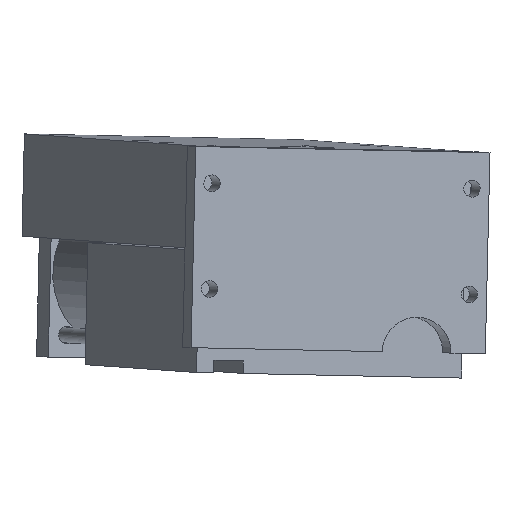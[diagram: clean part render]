
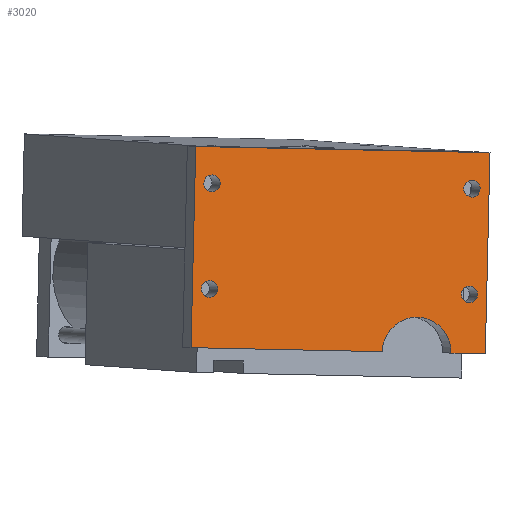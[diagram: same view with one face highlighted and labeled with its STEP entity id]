
A CAD part, front view. The second image highlights one B-rep face of the part: STEP entity #3020.
In plain terms, the highlighted planar face has unit normal (0.222, -0.975, -0.016).
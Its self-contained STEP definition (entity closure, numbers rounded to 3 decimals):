
#2684=CARTESIAN_POINT('',(80.492,-100.339,95.57));
#2685=VERTEX_POINT('',#2684);
#2686=CARTESIAN_POINT('',(77.252,-101.077,95.638));
#2687=DIRECTION('',(-0.222,0.975,0.016));
#2688=DIRECTION('',(0.975,0.222,-0.02));
#2689=AXIS2_PLACEMENT_3D('',#2686,#2687,#2688);
#2690=CIRCLE('',#2689,3.324);
#2691=EDGE_CURVE('',#2685,#2685,#2690,.T.);
#2725=CARTESIAN_POINT('',(-22.843,-123.858,97.736));
#2726=VERTEX_POINT('',#2725);
#2727=CARTESIAN_POINT('',(-26.083,-124.596,97.803));
#2728=DIRECTION('',(-0.222,0.975,0.016));
#2729=DIRECTION('',(0.975,0.222,-0.02));
#2730=AXIS2_PLACEMENT_3D('',#2727,#2728,#2729);
#2731=CIRCLE('',#2730,3.324);
#2732=EDGE_CURVE('',#2726,#2726,#2731,.T.);
#2782=CARTESIAN_POINT('',(81.474,-100.788,137.556));
#2783=VERTEX_POINT('',#2782);
#2784=CARTESIAN_POINT('',(78.234,-101.525,137.624));
#2785=DIRECTION('',(-0.222,0.975,0.016));
#2786=DIRECTION('',(0.975,0.222,-0.02));
#2787=AXIS2_PLACEMENT_3D('',#2784,#2785,#2786);
#2788=CIRCLE('',#2787,3.324);
#2789=EDGE_CURVE('',#2783,#2783,#2788,.T.);
#2831=CARTESIAN_POINT('',(-21.861,-124.307,139.722));
#2832=VERTEX_POINT('',#2831);
#2833=CARTESIAN_POINT('',(-25.101,-125.044,139.79));
#2834=DIRECTION('',(-0.222,0.975,0.016));
#2835=DIRECTION('',(0.975,0.222,-0.02));
#2836=AXIS2_PLACEMENT_3D('',#2833,#2834,#2835);
#2837=CIRCLE('',#2836,3.324);
#2838=EDGE_CURVE('',#2832,#2832,#2837,.T.);
#2848=CARTESIAN_POINT('',(85.397,-100.127,151.976));
#2849=VERTEX_POINT('',#2848);
#2850=CARTESIAN_POINT('',(83.527,-99.273,72.003));
#2851=VERTEX_POINT('',#2850);
#2852=CARTESIAN_POINT('',(85.397,-100.127,151.976));
#2853=DIRECTION('',(-0.023,0.011,-1.));
#2854=VECTOR('',#2853,80.0);
#2855=LINE('',#2852,#2854);
#2856=EDGE_CURVE('',#2849,#2851,#2855,.T.);
#2879=CARTESIAN_POINT('',(69.879,-102.379,72.289));
#2880=VERTEX_POINT('',#2879);
#2881=CARTESIAN_POINT('',(83.527,-99.273,72.003));
#2882=DIRECTION('',(-0.975,-0.222,0.02));
#2883=VECTOR('',#2882,14.);
#2884=LINE('',#2881,#2883);
#2885=EDGE_CURVE('',#2851,#2880,#2884,.T.);
#2903=CARTESIAN_POINT('',(42.583,-108.591,72.861));
#2904=VERTEX_POINT('',#2903);
#2905=CARTESIAN_POINT('',(56.231,-105.485,72.575));
#2906=DIRECTION('',(0.222,-0.975,-0.016));
#2907=DIRECTION('',(0.975,0.222,-0.02));
#2908=AXIS2_PLACEMENT_3D('',#2905,#2906,#2907);
#2909=CIRCLE('',#2908,14.);
#2910=EDGE_CURVE('',#2880,#2904,#2909,.T.);
#2928=CARTESIAN_POINT('',(-33.456,-125.898,74.454));
#2929=VERTEX_POINT('',#2928);
#2930=CARTESIAN_POINT('',(42.583,-108.591,72.861));
#2931=DIRECTION('',(-0.975,-0.222,0.02));
#2932=VECTOR('',#2931,78.);
#2933=LINE('',#2930,#2932);
#2934=EDGE_CURVE('',#2904,#2929,#2933,.T.);
#2952=CARTESIAN_POINT('',(-31.586,-126.752,154.428));
#2953=VERTEX_POINT('',#2952);
#2954=CARTESIAN_POINT('',(-33.456,-125.898,74.454));
#2955=DIRECTION('',(0.023,-0.011,1.));
#2956=VECTOR('',#2955,80.0);
#2957=LINE('',#2954,#2956);
#2958=EDGE_CURVE('',#2929,#2953,#2957,.T.);
#2976=CARTESIAN_POINT('',(-31.586,-126.752,154.428));
#2977=DIRECTION('',(0.975,0.222,-0.02));
#2978=VECTOR('',#2977,120.);
#2979=LINE('',#2976,#2978);
#2980=EDGE_CURVE('',#2953,#2849,#2979,.T.);
#2995=CARTESIAN_POINT('',(27.153,-112.732,112.503));
#2996=DIRECTION('',(0.222,-0.975,-0.016));
#2997=DIRECTION('',(0.975,0.222,-0.02));
#2998=AXIS2_PLACEMENT_3D('',#2995,#2996,#2997);
#2999=PLANE('',#2998);
#3000=ORIENTED_EDGE('',*,*,#2856,.F.);
#3001=ORIENTED_EDGE('',*,*,#2980,.F.);
#3002=ORIENTED_EDGE('',*,*,#2958,.F.);
#3003=ORIENTED_EDGE('',*,*,#2934,.F.);
#3004=ORIENTED_EDGE('',*,*,#2910,.F.);
#3005=ORIENTED_EDGE('',*,*,#2885,.F.);
#3006=EDGE_LOOP('',(#3000,#3001,#3002,#3003,#3004,#3005));
#3007=FACE_OUTER_BOUND('',#3006,.T.);
#3008=ORIENTED_EDGE('',*,*,#2691,.T.);
#3009=EDGE_LOOP('',(#3008));
#3010=FACE_BOUND('',#3009,.T.);
#3011=ORIENTED_EDGE('',*,*,#2732,.T.);
#3012=EDGE_LOOP('',(#3011));
#3013=FACE_BOUND('',#3012,.T.);
#3014=ORIENTED_EDGE('',*,*,#2789,.T.);
#3015=EDGE_LOOP('',(#3014));
#3016=FACE_BOUND('',#3015,.T.);
#3017=ORIENTED_EDGE('',*,*,#2838,.T.);
#3018=EDGE_LOOP('',(#3017));
#3019=FACE_BOUND('',#3018,.T.);
#3020=ADVANCED_FACE('',(#3007,#3010,#3013,#3016,#3019),#2999,.T.);
